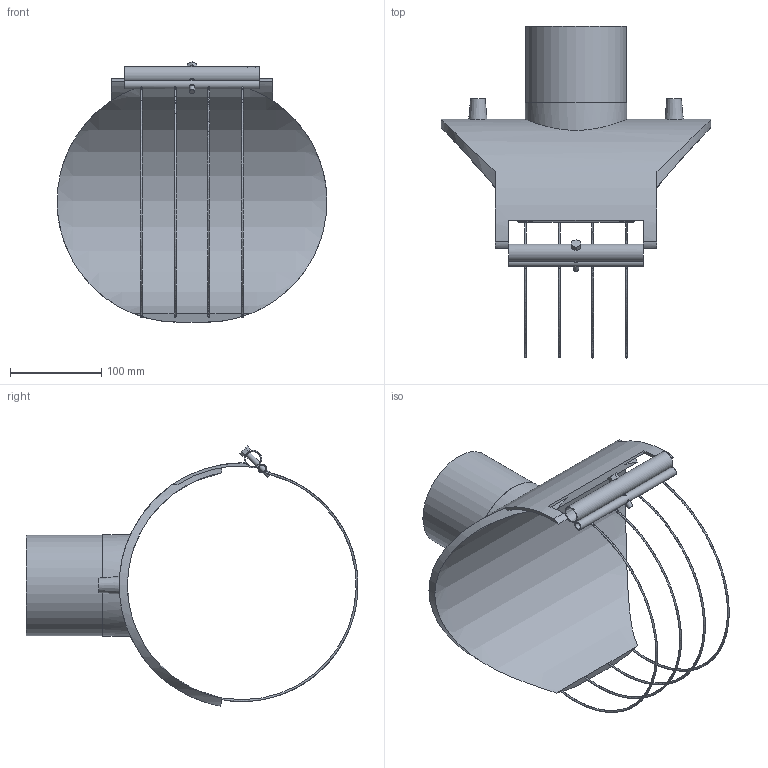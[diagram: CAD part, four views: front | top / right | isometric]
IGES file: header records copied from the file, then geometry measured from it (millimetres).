
Global section: file name: 4958X4250110T.ipt; native system: Autodesk Inventor 2019; preprocessor: unknown; author: KIM; date: 20201215.122048; units: millimetre
Bounding box: 295 x 363 x 284.56 mm (x, y, z)
Volume: 1128942.1 mm3; surface area: 289674.5 mm2
Topology: 1 solids, 1 shells, 61 faces, 171 edges, 112 vertices
Faces by surface type: plane 25, cylinder 19, revolution 15, cone 2
Full cylindrical faces by diameter (mm): 6 x3, 9.6 x1, 16 x1, 19.2 x1, 110 x1, 111 x1
